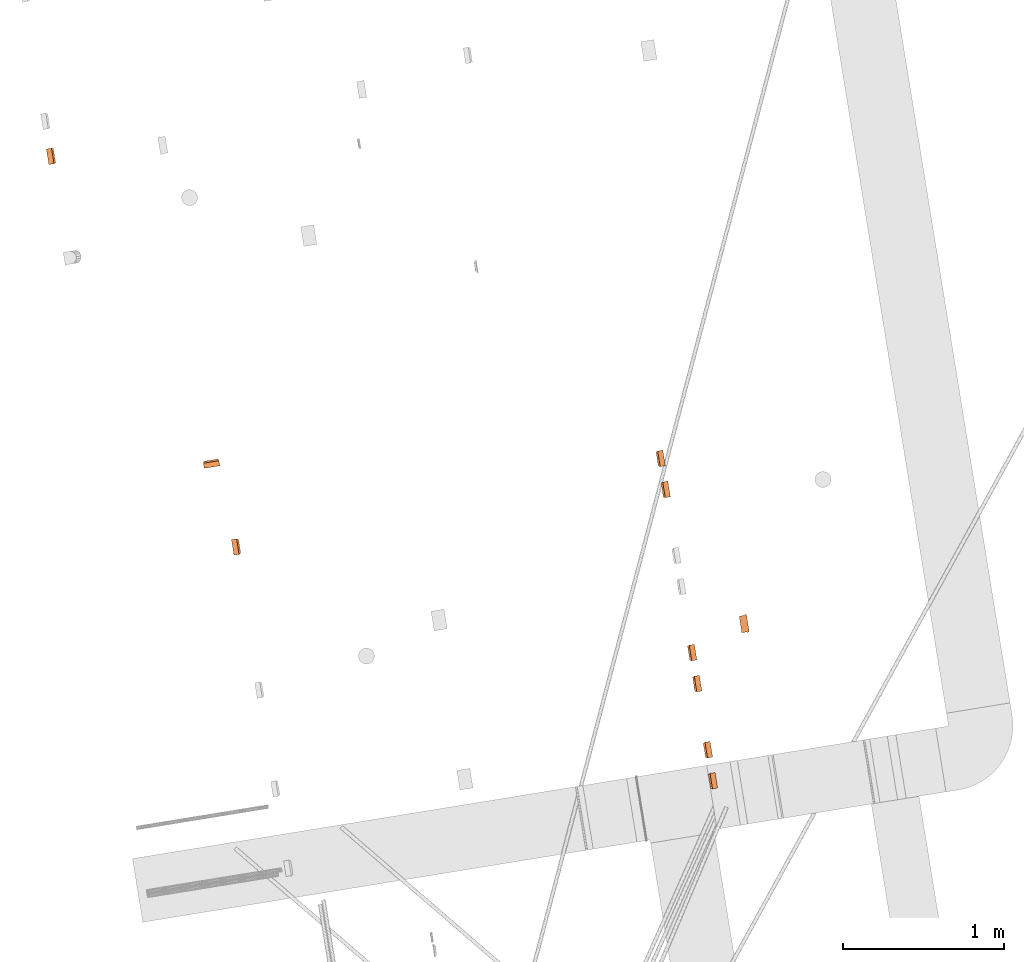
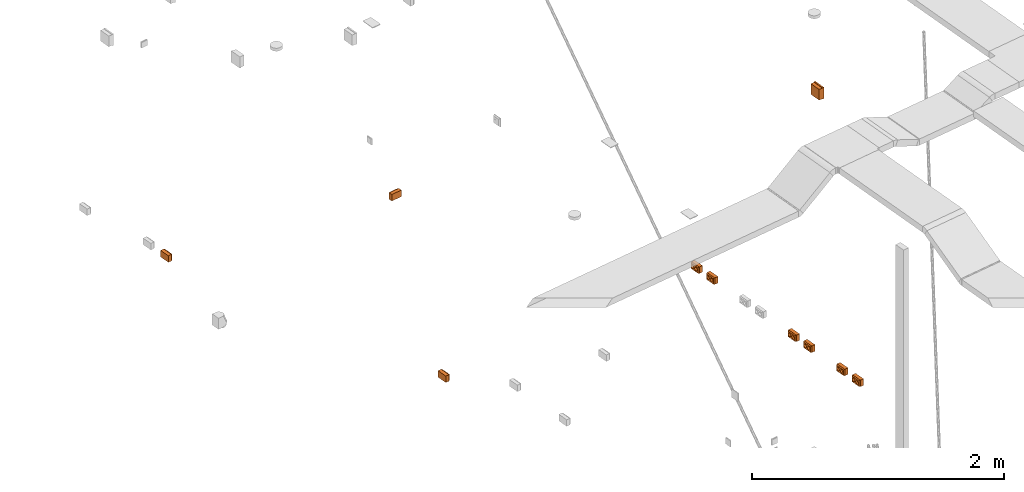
# One storey, part 20 of 33: 10 proxies.
"""IFC2X3 building model written with IfcOpenShell, lengths in millimetres."""

from ifc_helpers import new_model, entity, si_unit, converted_unit, derived_unit, direction, frame, frame_2d, origin, origin_with_axes, origin_2d_with_axis, place, context, subcontext, project, spatial, polyline, circle_curve, parameter, trimmed, segment, composite_curve, rectangle, circle, hollow_circle, outline, extrude, source, transform, mapped, material, type_object, element, save


model = new_model("IFC2X3")

# Units and contexts
plan_context = context("Plan", 3, precision=1e-05, world=origin_with_axes())
model_context = context("Model", 3, precision=0.01, world=origin(), true_north=direction((6.12323399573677e-17, 1.0)))
body_context = subcontext(model_context, "Body", "Model", "MODEL_VIEW")
ifc_project = project(units=[converted_unit("PLANEANGLEUNIT", "DEGREE", entity("IfcPositiveLengthMeasure", 0.0174532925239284), si_unit("PLANEANGLEUNIT", "RADIAN"), dimensions=[0, 0, 0, 0, 0, 0, 0]), si_unit("AREAUNIT", "SQUARE_METRE"), si_unit("LENGTHUNIT", "METRE", prefix="MILLI"), si_unit("MASSUNIT", "GRAM", prefix="KILO"), si_unit("POWERUNIT", "WATT"), si_unit("PRESSUREUNIT", "PASCAL", prefix="KILO"), si_unit("FORCEUNIT", "NEWTON", prefix="KILO"), si_unit("ELECTRICVOLTAGEUNIT", "VOLT"), si_unit("ELECTRICCURRENTUNIT", "AMPERE"), si_unit("THERMODYNAMICTEMPERATUREUNIT", "DEGREE_CELSIUS"), si_unit("TIMEUNIT", "SECOND"), si_unit("VOLUMEUNIT", "CUBIC_METRE"), derived_unit("LINEARVELOCITYUNIT", [(si_unit("LENGTHUNIT", "METRE"), 1), (si_unit("TIMEUNIT", "SECOND"), -1)]), derived_unit("VOLUMETRICFLOWRATEUNIT", [(si_unit("VOLUMEUNIT", "CUBIC_METRE"), 1), (si_unit("TIMEUNIT", "SECOND"), -1)]), derived_unit("THERMALTRANSMITTANCEUNIT", [(si_unit("POWERUNIT", "WATT"), 1), (si_unit("THERMODYNAMICTEMPERATUREUNIT", "KELVIN"), -1), (si_unit("AREAUNIT", "SQUARE_METRE"), -1)]), derived_unit("SOUNDPRESSUREUNIT", [(si_unit("PRESSUREUNIT", "PASCAL"), 1)])], contexts=[model_context, plan_context])

# Site, building, storey
site_placement = place(None, frame((-0.219946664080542, 0.12226179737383, 0.0), z_axis=(0.0, 0.0, 1.0), x_axis=(-0.160236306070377, 0.987078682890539, 0.0)))
site = spatial("IfcSite", under=ifc_project, at=site_placement, Name="Default", CompositionType="ELEMENT")
building_placement = place(site_placement, origin_with_axes())
building = spatial("IfcBuilding", under=site, at=building_placement, CompositionType="ELEMENT")
storey_placement = place(building_placement, frame((0.0, 0.0, 59000.0), z_axis=(0.0, 0.0, 1.0), x_axis=(1.0, 0.0, 0.0)))
storey = spatial("IfcBuildingStorey", under=building, at=storey_placement, Name="Nivå F", CompositionType="ELEMENT", Elevation=59000.0)

# Proxies
ifc_material = material(Name="<Unnamed>")
building_element_proxy_type_1 = type_object("IfcBuildingElementProxyType", Name="Dobbel stikk på vegg 2P+J hor PH:EARTHED-SOCKET-2(HOR)", PredefinedType="NOTDEFINED", material=ifc_material)
shared_shape_1 = source(origin(), body_context, "Body", "SweptSolid", [
    extrude(outline(composite_curve([segment(polyline([(-6.66666666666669, -6.66666666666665), (13.3333333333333, -6.66666666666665)]), True, "CONTINUOUS"), segment(trimmed(circle_curve(frame_2d((13.3333333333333, 13.3333333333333), x_axis=(0.0, -1.0)), 20.0), [parameter(270.0)], [parameter(5.08888749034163e-14)], True, "PARAMETER"), False, "CONTINUOUS"), segment(polyline([(-6.66666666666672, 13.3333333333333), (-6.66666666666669, -6.66666666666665)]), True, "CONTINUOUS")], self_intersect=False)), frame((35.3333333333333, 42.8999999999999, 13.3533333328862), z_axis=(0.0, 1.0, 0.0), x_axis=(0.0, 0.0, -1.0)), (0.0, 0.0, 1.0), 0.199999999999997),
    extrude(outline(composite_curve([segment(polyline([(-6.66666666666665, -6.66666666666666), (13.3333333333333, -6.66666666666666)]), True, "CONTINUOUS"), segment(trimmed(circle_curve(frame_2d((13.3333333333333, 13.3333333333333), x_axis=(-1.0, 0.0)), 20.0), [parameter(360.0)], [parameter(89.9999999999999)], True, "PARAMETER"), False, "CONTINUOUS"), segment(polyline([(-6.66666666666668, 13.3333333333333), (-6.66666666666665, -6.66666666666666)]), True, "CONTINUOUS")], self_intersect=False)), frame((35.3333333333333, 42.8999999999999, -13.3233333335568), z_axis=(0.0, 1.0, 0.0), x_axis=(-1.0, 0.0, 0.0)), (0.0, 0.0, 1.0), 0.199999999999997),
    extrude(outline(composite_curve([segment(polyline([(-6.66666666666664, -6.66666666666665), (13.3333333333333, -6.66666666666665)]), True, "CONTINUOUS"), segment(trimmed(circle_curve(frame_2d((13.3333333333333, 13.3333333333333), x_axis=(-1.0, 0.0)), 20.0), [parameter(0.0)], [parameter(89.9999999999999)], True, "PARAMETER"), False, "CONTINUOUS"), segment(polyline([(-6.66666666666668, 13.3333333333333), (-6.66666666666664, -6.66666666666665)]), True, "CONTINUOUS")], self_intersect=False)), frame((8.66666666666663, 42.8999999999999, 13.3433333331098), z_axis=(0.0, 1.0, 0.0), x_axis=(1.0, 0.0, 0.0)), (0.0, 0.0, 1.0), 0.199999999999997),
    extrude(outline(composite_curve([segment(polyline([(-6.66666666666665, -6.66666666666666), (13.3333333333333, -6.66666666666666)]), True, "CONTINUOUS"), segment(trimmed(circle_curve(frame_2d((13.3333333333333, 13.3333333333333), x_axis=(-1.0, 0.0)), 20.0), [parameter(360.0)], [parameter(89.9999999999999)], True, "PARAMETER"), False, "CONTINUOUS"), segment(polyline([(-6.66666666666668, 13.3333333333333), (-6.66666666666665, -6.66666666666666)]), True, "CONTINUOUS")], self_intersect=False)), frame((35.3333333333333, 42.8999999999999, -13.3433333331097), z_axis=(0.0, 1.0, 0.0), x_axis=(-1.0, 0.0, 0.0)), (0.0, 0.0, 1.0), 0.199999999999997),
    extrude(outline(composite_curve([segment(polyline([(-6.66666666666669, -6.66666666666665), (13.3333333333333, -6.66666666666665)]), True, "CONTINUOUS"), segment(trimmed(circle_curve(frame_2d((13.3333333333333, 13.3333333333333), x_axis=(0.0, -1.0)), 20.0), [parameter(270.0)], [parameter(5.08888749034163e-14)], True, "PARAMETER"), False, "CONTINUOUS"), segment(polyline([(-6.66666666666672, 13.3333333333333), (-6.66666666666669, -6.66666666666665)]), True, "CONTINUOUS")], self_intersect=False)), frame((35.3333333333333, 42.8999999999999, 13.3333333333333), z_axis=(0.0, 1.0, 0.0), x_axis=(0.0, 0.0, -1.0)), (0.0, 0.0, 1.0), 0.199999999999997),
    extrude(outline(composite_curve([segment(polyline([(-6.66666666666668, -6.66666666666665), (13.3333333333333, -6.66666666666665)]), True, "CONTINUOUS"), segment(trimmed(circle_curve(frame_2d((13.3333333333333, 13.3333333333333), x_axis=(0.0, -1.0)), 20.0), [parameter(270.0)], [parameter(0.0)], True, "PARAMETER"), False, "CONTINUOUS"), segment(polyline([(-6.66666666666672, 13.3333333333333), (-6.66666666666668, -6.66666666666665)]), True, "CONTINUOUS")], self_intersect=False)), frame((8.66666666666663, 42.8999999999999, -13.3333333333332), z_axis=(0.0, 1.0, 0.0), x_axis=(0.0, 0.0, 1.0)), (0.0, 0.0, 1.0), 0.199999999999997),
    extrude(outline(composite_curve([segment(polyline([(-6.66666666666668, -6.66666666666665), (13.3333333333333, -6.66666666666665)]), True, "CONTINUOUS"), segment(trimmed(circle_curve(frame_2d((13.3333333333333, 13.3333333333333), x_axis=(0.0, -1.0)), 20.0), [parameter(270.0)], [parameter(0.0)], True, "PARAMETER"), False, "CONTINUOUS"), segment(polyline([(-6.66666666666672, 13.3333333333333), (-6.66666666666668, -6.66666666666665)]), True, "CONTINUOUS")], self_intersect=False)), frame((-8.66666666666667, 42.8999999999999, 13.3533333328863), z_axis=(0.0, 1.0, 0.0), x_axis=(0.0, 0.0, -1.0)), (0.0, 0.0, 1.0), 0.199999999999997),
    extrude(outline(composite_curve([segment(polyline([(-6.66666666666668, -6.66666666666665), (13.3333333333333, -6.66666666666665)]), True, "CONTINUOUS"), segment(trimmed(circle_curve(frame_2d((13.3333333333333, 13.3333333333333), x_axis=(-1.0, 0.0)), 20.0), [parameter(0.0)], [parameter(90.0)], True, "PARAMETER"), False, "CONTINUOUS"), segment(polyline([(-6.66666666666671, 13.3333333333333), (-6.66666666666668, -6.66666666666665)]), True, "CONTINUOUS")], self_intersect=False)), frame((-8.66666666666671, 42.8999999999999, -13.3233333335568), z_axis=(0.0, 1.0, 0.0), x_axis=(-1.0, 0.0, 0.0)), (0.0, 0.0, 1.0), 0.199999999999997),
    extrude(outline(composite_curve([segment(polyline([(-6.66666666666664, -6.66666666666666), (13.3333333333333, -6.66666666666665)]), True, "CONTINUOUS"), segment(trimmed(circle_curve(frame_2d((13.3333333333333, 13.3333333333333), x_axis=(-1.0, 0.0)), 20.0), [parameter(360.0)], [parameter(89.9999999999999)], True, "PARAMETER"), False, "CONTINUOUS"), segment(polyline([(-6.66666666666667, 13.3333333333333), (-6.66666666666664, -6.66666666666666)]), True, "CONTINUOUS")], self_intersect=False)), frame((-35.3333333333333, 42.8999999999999, 13.3433333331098), z_axis=(0.0, 1.0, 0.0), x_axis=(1.0, 0.0, 0.0)), (0.0, 0.0, 1.0), 0.199999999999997),
    extrude(outline(composite_curve([segment(polyline([(-6.66666666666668, -6.66666666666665), (13.3333333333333, -6.66666666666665)]), True, "CONTINUOUS"), segment(trimmed(circle_curve(frame_2d((13.3333333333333, 13.3333333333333), x_axis=(-1.0, 0.0)), 20.0), [parameter(0.0)], [parameter(90.0)], True, "PARAMETER"), False, "CONTINUOUS"), segment(polyline([(-6.66666666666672, 13.3333333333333), (-6.66666666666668, -6.66666666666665)]), True, "CONTINUOUS")], self_intersect=False)), frame((-8.66666666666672, 42.8999999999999, -13.3433333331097), z_axis=(0.0, 1.0, 0.0), x_axis=(-1.0, 0.0, 0.0)), (0.0, 0.0, 1.0), 0.199999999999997),
    extrude(outline(composite_curve([segment(polyline([(-6.66666666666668, -6.66666666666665), (13.3333333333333, -6.66666666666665)]), True, "CONTINUOUS"), segment(trimmed(circle_curve(frame_2d((13.3333333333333, 13.3333333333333), x_axis=(0.0, -1.0)), 20.0), [parameter(270.0)], [parameter(0.0)], True, "PARAMETER"), False, "CONTINUOUS"), segment(polyline([(-6.66666666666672, 13.3333333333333), (-6.66666666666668, -6.66666666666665)]), True, "CONTINUOUS")], self_intersect=False)), frame((-8.66666666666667, 42.8999999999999, 13.3333333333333), z_axis=(0.0, 1.0, 0.0), x_axis=(0.0, 0.0, -1.0)), (0.0, 0.0, 1.0), 0.199999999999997),
    extrude(outline(composite_curve([segment(polyline([(-6.66666666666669, -6.66666666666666), (13.3333333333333, -6.66666666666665)]), True, "CONTINUOUS"), segment(trimmed(circle_curve(frame_2d((13.3333333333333, 13.3333333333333), x_axis=(0.0, -1.0)), 20.0), [parameter(270.0)], [parameter(5.08888749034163e-14)], True, "PARAMETER"), False, "CONTINUOUS"), segment(polyline([(-6.66666666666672, 13.3333333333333), (-6.66666666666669, -6.66666666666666)]), True, "CONTINUOUS")], self_intersect=False)), frame((-35.3333333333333, 42.8999999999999, -13.3333333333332), z_axis=(0.0, 1.0, 0.0), x_axis=(0.0, 0.0, 1.0)), (0.0, 0.0, 1.0), 0.199999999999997),
    extrude(rectangle(XDim=9.99999999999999, YDim=1.0, at=frame_2d((0.0, 2.1094237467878e-15), x_axis=(1.0, 0.0))), frame((22.0, 40.0, -17.6), z_axis=(0.0, 0.0, 1.0), x_axis=(0.0, -1.0, 0.0)), (0.0, 0.0, 1.0), 0.199999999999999),
    extrude(rectangle(XDim=21.5, YDim=1.0, at=frame_2d((0.0, 8.43769498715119e-15), x_axis=(1.0, 0.0))), frame((22.0, 32.25, -19.6), z_axis=(0.0, 0.0, 1.0), x_axis=(0.0, -1.0, 0.0)), (0.0, 0.0, 1.0), 0.200000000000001),
    extrude(rectangle(XDim=9.99999999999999, YDim=1.0, at=frame_2d((0.0, 2.1094237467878e-15), x_axis=(1.0, 0.0))), frame((22.0, 40.0, 17.4), z_axis=(0.0, 0.0, 1.0), x_axis=(0.0, -1.0, 0.0)), (0.0, 0.0, 1.0), 0.199999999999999),
    extrude(rectangle(XDim=21.5, YDim=1.0, at=frame_2d((0.0, 8.43769498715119e-15), x_axis=(1.0, 0.0))), frame((22.0, 32.25, 19.4), z_axis=(0.0, 0.0, 1.0), x_axis=(0.0, -1.0, 0.0)), (0.0, 0.0, 1.0), 0.200000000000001),
    extrude(rectangle(XDim=9.99999999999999, YDim=1.0, at=frame_2d((0.0, -2.1094237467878e-15), x_axis=(1.0, 0.0))), frame((-22.0, 40.0, -17.6), z_axis=(0.0, 0.0, 1.0), x_axis=(0.0, -1.0, 0.0)), (0.0, 0.0, 1.0), 0.199999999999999),
    extrude(rectangle(XDim=21.5, YDim=1.0, at=frame_2d((0.0, 8.43769498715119e-15), x_axis=(1.0, 0.0))), frame((-22.0, 32.25, -19.6), z_axis=(0.0, 0.0, 1.0), x_axis=(0.0, -1.0, 0.0)), (0.0, 0.0, 1.0), 0.200000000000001),
    extrude(rectangle(XDim=9.99999999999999, YDim=1.0, at=frame_2d((0.0, -2.1094237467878e-15), x_axis=(1.0, 0.0))), frame((-22.0, 40.0, 17.4), z_axis=(0.0, 0.0, 1.0), x_axis=(0.0, -1.0, 0.0)), (0.0, 0.0, 1.0), 0.199999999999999),
    extrude(rectangle(XDim=21.5, YDim=1.0, at=frame_2d((0.0, 8.43769498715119e-15), x_axis=(1.0, 0.0))), frame((-22.0, 32.25, 19.4), z_axis=(0.0, 0.0, 1.0), x_axis=(0.0, -1.0, 0.0)), (0.0, 0.0, 1.0), 0.200000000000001),
    extrude(rectangle(XDim=0.199999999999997, YDim=2.0, at=frame_2d((4.2257863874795e-15, 0.0), x_axis=(1.0, 0.0))), frame((43.0, 43.0, 0.0199999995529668), z_axis=(0.0, 0.0, 1.0), x_axis=(0.0, 1.0, 0.0)), (0.0, 0.0, 1.0), 20.0),
    extrude(rectangle(XDim=0.199999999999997, YDim=40.0, at=frame_2d((4.2257863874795e-15, 0.0), x_axis=(1.0, 0.0))), frame((22.0, 43.0, 20.0199999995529), z_axis=(0.0, 0.0, 1.0), x_axis=(0.0, 1.0, 0.0)), (0.0, 0.0, 1.0), 6.5),
    extrude(rectangle(XDim=0.199999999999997, YDim=2.0, at=frame_2d((4.2257863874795e-15, 0.0), x_axis=(1.0, 0.0))), frame((43.0, 43.0, -19.9900000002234), z_axis=(0.0, 0.0, 1.0), x_axis=(0.0, -1.0, 0.0)), (0.0, 0.0, 1.0), 20.0),
    extrude(rectangle(XDim=0.199999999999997, YDim=40.0, at=frame_2d((4.2257863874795e-15, 0.0), x_axis=(1.0, 0.0))), frame((22.0, 43.0, -26.4900000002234), z_axis=(0.0, 0.0, 1.0), x_axis=(0.0, -1.0, 0.0)), (0.0, 0.0, 1.0), 6.49999999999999),
    extrude(rectangle(XDim=0.199999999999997, YDim=2.0, at=frame_2d((4.2257863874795e-15, 0.0), x_axis=(1.0, 0.0))), frame((1.0, 43.0, 0.00999999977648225), z_axis=(0.0, 0.0, 1.0), x_axis=(0.0, -1.0, 0.0)), (0.0, 0.0, 1.0), 20.0),
    extrude(rectangle(XDim=0.199999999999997, YDim=2.0, at=frame_2d((4.2257863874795e-15, 0.0), x_axis=(1.0, 0.0))), frame((43.0, 43.0, -20.0099999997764), z_axis=(0.0, 0.0, 1.0), x_axis=(0.0, -1.0, 0.0)), (0.0, 0.0, 1.0), 20.0),
    extrude(rectangle(XDim=0.199999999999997, YDim=40.0, at=frame_2d((4.2257863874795e-15, 0.0), x_axis=(1.0, 0.0))), frame((22.0, 43.0, -26.5099999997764), z_axis=(0.0, 0.0, 1.0), x_axis=(0.0, -1.0, 0.0)), (0.0, 0.0, 1.0), 6.5),
    extrude(rectangle(XDim=0.199999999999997, YDim=2.0, at=frame_2d((4.2257863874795e-15, 0.0), x_axis=(1.0, 0.0))), frame((43.0, 43.0, 0.0), z_axis=(0.0, 0.0, 1.0), x_axis=(0.0, 1.0, 0.0)), (0.0, 0.0, 1.0), 20.0),
    extrude(rectangle(XDim=0.199999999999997, YDim=40.0, at=frame_2d((4.2257863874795e-15, 0.0), x_axis=(1.0, 0.0))), frame((22.0, 43.0, 20.0), z_axis=(0.0, 0.0, 1.0), x_axis=(0.0, 1.0, 0.0)), (0.0, 0.0, 1.0), 6.5),
    extrude(rectangle(XDim=0.199999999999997, YDim=2.0, at=frame_2d((4.2257863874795e-15, 0.0), x_axis=(1.0, 0.0))), frame((1.0, 43.0, -20.0), z_axis=(0.0, 0.0, 1.0), x_axis=(0.0, 1.0, 0.0)), (0.0, 0.0, 1.0), 20.0),
    extrude(rectangle(XDim=0.199999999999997, YDim=2.0, at=frame_2d((4.2257863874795e-15, 0.0), x_axis=(1.0, 0.0))), frame((-1.0, 43.0, 0.0199999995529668), z_axis=(0.0, 0.0, 1.0), x_axis=(0.0, 1.0, 0.0)), (0.0, 0.0, 1.0), 20.0),
    extrude(rectangle(XDim=0.199999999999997, YDim=40.0, at=frame_2d((4.2257863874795e-15, 0.0), x_axis=(1.0, 0.0))), frame((-22.0, 43.0, 20.0199999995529), z_axis=(0.0, 0.0, 1.0), x_axis=(0.0, 1.0, 0.0)), (0.0, 0.0, 1.0), 6.5),
    extrude(rectangle(XDim=0.199999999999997, YDim=2.0, at=frame_2d((4.2257863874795e-15, 0.0), x_axis=(1.0, 0.0))), frame((-1.0, 43.0, -19.9900000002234), z_axis=(0.0, 0.0, 1.0), x_axis=(0.0, -1.0, 0.0)), (0.0, 0.0, 1.0), 20.0),
    extrude(rectangle(XDim=0.199999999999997, YDim=40.0, at=frame_2d((4.2257863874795e-15, 0.0), x_axis=(1.0, 0.0))), frame((-22.0, 43.0, -26.4900000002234), z_axis=(0.0, 0.0, 1.0), x_axis=(0.0, -1.0, 0.0)), (0.0, 0.0, 1.0), 6.49999999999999),
    extrude(rectangle(XDim=0.199999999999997, YDim=1.99999999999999, at=frame_2d((4.2257863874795e-15, 4.2188474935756e-15), x_axis=(1.0, 0.0))), frame((-43.0, 43.0, 0.00999999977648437), z_axis=(0.0, 0.0, 1.0), x_axis=(0.0, -1.0, 0.0)), (0.0, 0.0, 1.0), 20.0),
    extrude(rectangle(XDim=0.199999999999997, YDim=2.0, at=frame_2d((4.2257863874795e-15, 0.0), x_axis=(1.0, 0.0))), frame((-1.0, 43.0, -20.0099999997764), z_axis=(0.0, 0.0, 1.0), x_axis=(0.0, -1.0, 0.0)), (0.0, 0.0, 1.0), 20.0),
    extrude(rectangle(XDim=0.199999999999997, YDim=40.0, at=frame_2d((4.2257863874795e-15, 0.0), x_axis=(1.0, 0.0))), frame((-22.0, 43.0, -26.5099999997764), z_axis=(0.0, 0.0, 1.0), x_axis=(0.0, -1.0, 0.0)), (0.0, 0.0, 1.0), 6.5),
    extrude(rectangle(XDim=0.199999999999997, YDim=2.0, at=frame_2d((4.2257863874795e-15, 0.0), x_axis=(1.0, 0.0))), frame((-1.0, 43.0, 0.0), z_axis=(0.0, 0.0, 1.0), x_axis=(0.0, 1.0, 0.0)), (0.0, 0.0, 1.0), 20.0),
    extrude(rectangle(XDim=0.199999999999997, YDim=40.0, at=frame_2d((4.2257863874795e-15, 0.0), x_axis=(1.0, 0.0))), frame((-22.0, 43.0, 20.0), z_axis=(0.0, 0.0, 1.0), x_axis=(0.0, 1.0, 0.0)), (0.0, 0.0, 1.0), 6.5),
    extrude(rectangle(XDim=0.199999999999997, YDim=1.99999999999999, at=frame_2d((4.2257863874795e-15, -4.2188474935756e-15), x_axis=(1.0, 0.0))), frame((-43.0, 43.0, -20.0), z_axis=(0.0, 0.0, 1.0), x_axis=(0.0, 1.0, 0.0)), (0.0, 0.0, 1.0), 20.0),
    extrude(rectangle(XDim=0.199999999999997, YDim=2.0, at=frame_2d((4.2257863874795e-15, 0.0), x_axis=(1.0, 0.0))), frame((-1.0, 43.0, -26.5), z_axis=(0.0, 0.0, 1.0), x_axis=(0.0, 1.0, 0.0)), (0.0, 0.0, 1.0), 6.49999999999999),
    extrude(rectangle(XDim=0.199999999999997, YDim=1.99999999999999, at=frame_2d((4.2257863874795e-15, 4.2188474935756e-15), x_axis=(1.0, 0.0))), frame((-43.0, 43.0, -26.5), z_axis=(0.0, 0.0, 1.0), x_axis=(0.0, 1.0, 0.0)), (0.0, 0.0, 1.0), 6.49999999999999),
    extrude(rectangle(XDim=0.199999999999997, YDim=2.0, at=frame_2d((4.2257863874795e-15, 0.0), x_axis=(1.0, 0.0))), frame((1.0, 43.0, -26.5), z_axis=(0.0, 0.0, 1.0), x_axis=(0.0, 1.0, 0.0)), (0.0, 0.0, 1.0), 6.49999999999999),
    extrude(rectangle(XDim=0.199999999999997, YDim=1.99999999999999, at=frame_2d((4.2257863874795e-15, -4.2188474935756e-15), x_axis=(1.0, 0.0))), frame((43.0, 43.0, -26.5), z_axis=(0.0, 0.0, 1.0), x_axis=(0.0, 1.0, 0.0)), (0.0, 0.0, 1.0), 6.49999999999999),
    extrude(outline(polyline([(-24.3180677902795, -42.966633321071), (-11.2413709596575, -42.9666333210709), (22.4062700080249, 38.3465652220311), (13.1531687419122, 47.5867014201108), (-24.3180677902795, -42.966633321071)])), frame((0.0, 37.5413802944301, -29.0910366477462), z_axis=(0.0, -0.413802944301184, 0.910366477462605), x_axis=(-0.382359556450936, 0.84119102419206, 0.382359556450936)), (0.0, 0.0, 1.0), 0.199999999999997),
    extrude(outline(polyline([(-31.5, -6.04152298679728), (31.5, -6.04152298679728), (26.5, 6.04152298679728), (-26.5, 6.04152298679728), (-31.5, -6.04152298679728)])), frame((-46.5910366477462, 37.5413802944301, 0.0), z_axis=(0.910366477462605, -0.413802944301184, 0.0), x_axis=(0.0, 0.0, -1.0)), (0.0, 0.0, 1.0), 0.200000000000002),
    extrude(outline(polyline([(-31.5, -6.04152298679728), (31.5, -6.04152298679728), (26.5, 6.04152298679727), (-26.5, 6.04152298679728), (-31.5, -6.04152298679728)])), frame((46.4089633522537, 37.4586197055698, 0.0), z_axis=(0.910366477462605, 0.413802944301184, 0.0), x_axis=(0.0, 0.0, -1.0)), (0.0, 0.0, 1.0), 0.199999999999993),
    extrude(rectangle(XDim=32.0, YDim=97.9999999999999, at=frame_2d((1.77635683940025e-15, 0.0), x_axis=(1.0, 0.0))), frame((0.0, 16.0, -31.6), z_axis=(0.0, 0.0, 1.0), x_axis=(0.0, -1.0, 0.0)), (0.0, 0.0, 1.0), 0.200000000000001),
    extrude(rectangle(XDim=0.199999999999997, YDim=2.0, at=frame_2d((4.2257863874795e-15, 0.0), x_axis=(1.0, 0.0))), frame((-1.0, 43.0, 20.0), z_axis=(0.0, 0.0, 1.0), x_axis=(0.0, 1.0, 0.0)), (0.0, 0.0, 1.0), 6.49999999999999),
    extrude(rectangle(XDim=0.199999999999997, YDim=1.99999999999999, at=frame_2d((4.2257863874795e-15, 4.2188474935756e-15), x_axis=(1.0, 0.0))), frame((-43.0, 43.0, 20.0), z_axis=(0.0, 0.0, 1.0), x_axis=(0.0, 1.0, 0.0)), (0.0, 0.0, 1.0), 6.49999999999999),
    extrude(outline(polyline([(-44.0, -6.04152298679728), (44.0, -6.04152298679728), (49.0, 6.04152298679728), (-49.0, 6.04152298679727), (-44.0, -6.04152298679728)])), frame((0.0, 37.4586197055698, 28.9089633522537), z_axis=(0.0, 0.413802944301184, 0.910366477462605), x_axis=(-1.0, 0.0, 0.0)), (0.0, 0.0, 1.0), 0.200000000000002),
    extrude(rectangle(XDim=0.199999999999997, YDim=2.0, at=frame_2d((4.2257863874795e-15, 0.0), x_axis=(1.0, 0.0))), frame((1.0, 43.0, 20.0), z_axis=(0.0, 0.0, 1.0), x_axis=(0.0, 1.0, 0.0)), (0.0, 0.0, 1.0), 6.49999999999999),
    extrude(rectangle(XDim=0.199999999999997, YDim=1.99999999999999, at=frame_2d((4.2257863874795e-15, -4.2188474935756e-15), x_axis=(1.0, 0.0))), frame((43.0, 43.0, 20.0), z_axis=(0.0, 0.0, 1.0), x_axis=(0.0, 1.0, 0.0)), (0.0, 0.0, 1.0), 6.49999999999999),
    extrude(rectangle(XDim=32.0, YDim=97.9999999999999, at=frame_2d((1.77635683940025e-15, 0.0), x_axis=(1.0, 0.0))), frame((0.0, 16.0, 31.4), z_axis=(0.0, 0.0, 1.0), x_axis=(0.0, -1.0, 0.0)), (0.0, 0.0, 1.0), 0.200000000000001),
    extrude(rectangle(XDim=0.199999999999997, YDim=32.0, at=frame_2d((-4.2257863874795e-15, 0.0), x_axis=(1.0, 0.0))), frame((49.0, 16.0, -31.5)), (0.0, 0.0, 1.0), 62.9999999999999),
    extrude(rectangle(XDim=0.199999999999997, YDim=32.0, at=frame_2d((-4.2257863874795e-15, 0.0), x_axis=(1.0, 0.0))), frame((-49.0, 16.0, -31.5)), (0.0, 0.0, 1.0), 62.9999999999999),
    extrude(rectangle(XDim=0.2, YDim=97.9999999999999, at=origin_2d_with_axis()), frame((0.0, 0.0, -31.5), z_axis=(0.0, 0.0, 1.0), x_axis=(0.0, 1.0, 0.0)), (0.0, 0.0, 1.0), 62.9999999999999),
    extrude(circle(Radius=2.5, at=frame_2d((0.0, -4.22994972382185e-15), x_axis=(1.0, 0.0))), frame((32.0, 21.450000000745, 0.0), z_axis=(0.0, 1.0, 0.0), x_axis=(0.0, 0.0, 1.0)), (0.0, 0.0, 1.0), 0.200000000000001),
    extrude(circle(Radius=2.5, at=frame_2d((0.0, -4.22994972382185e-15), x_axis=(1.0, 0.0))), frame((12.0, 21.450000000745, 0.0), z_axis=(0.0, 1.0, 0.0), x_axis=(0.0, 0.0, 1.0)), (0.0, 0.0, 1.0), 0.200000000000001),
    extrude(circle(Radius=2.5, at=frame_2d((0.0, -4.22994972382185e-15), x_axis=(1.0, 0.0))), frame((-12.0, 21.450000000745, 0.0), z_axis=(0.0, 1.0, 0.0), x_axis=(0.0, 0.0, 1.0)), (0.0, 0.0, 1.0), 0.200000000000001),
    extrude(circle(Radius=2.5, at=frame_2d((0.0, -4.22994972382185e-15), x_axis=(1.0, 0.0))), frame((-32.0, 21.450000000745, 0.0), z_axis=(0.0, 1.0, 0.0), x_axis=(0.0, 0.0, 1.0)), (0.0, 0.0, 1.0), 0.200000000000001),
    extrude(circle(Radius=20.0, at=frame_2d((0.0, -2.96096480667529e-14), x_axis=(1.0, 0.0))), frame((22.0, 21.4, 0.0), z_axis=(0.0, 1.0, 0.0), x_axis=(0.0, 0.0, 1.0)), (0.0, 0.0, 1.0), 0.200000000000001),
    extrude(circle(Radius=20.0, at=frame_2d((0.0, -2.96096480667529e-14), x_axis=(1.0, 0.0))), frame((-22.0, 21.4, 0.0), z_axis=(0.0, 1.0, 0.0), x_axis=(0.0, 0.0, 1.0)), (0.0, 0.0, 1.0), 0.200000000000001),
    extrude(outline(composite_curve([segment(trimmed(circle_curve(frame_2d((-0.800000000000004, 0.800000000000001), x_axis=(1.0, 0.0)), 2.0), [parameter(270.0)], [parameter(0.0)], True, "PARAMETER"), True, "CONTINUOUS"), segment(polyline([(1.2, 0.8), (0.399999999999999, 0.8)]), True, "CONTINUOUS"), segment(trimmed(circle_curve(frame_2d((-0.800000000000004, 0.799999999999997), x_axis=(0.0, -1.0)), 1.2), [parameter(0.0)], [parameter(89.9999999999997)], True, "PARAMETER"), False, "CONTINUOUS"), segment(polyline([(-0.799999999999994, -0.400000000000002), (-0.799999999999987, -1.2)]), True, "CONTINUOUS")], self_intersect=False)), frame((20.5, 43.7999999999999, -18.3), z_axis=(1.0, 0.0, 0.0), x_axis=(0.0, 1.0, 0.0)), (0.0, 0.0, 1.0), 2.0),
    extrude(outline(composite_curve([segment(polyline([(-1.2, -0.800000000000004), (-0.399999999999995, -0.800000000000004)]), True, "CONTINUOUS"), segment(trimmed(circle_curve(frame_2d((0.800000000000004, -0.800000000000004), x_axis=(-1.0, 0.0)), 1.2), [parameter(270.0)], [parameter(0.0)], True, "PARAMETER"), False, "CONTINUOUS"), segment(polyline([(0.799999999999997, 0.399999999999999), (0.79999999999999, 1.2)]), True, "CONTINUOUS"), segment(trimmed(circle_curve(frame_2d((0.800000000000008, -0.800000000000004), x_axis=(0.0, 1.0)), 2.0), [parameter(0.0)], [parameter(89.9999999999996)], True, "PARAMETER"), True, "CONTINUOUS")], self_intersect=False)), frame((21.5, 43.8, 18.3), z_axis=(1.0, 0.0, 0.0), x_axis=(0.0, 0.0, -1.0)), (0.0, 0.0, 1.0), 2.0),
    extrude(outline(composite_curve([segment(trimmed(circle_curve(frame_2d((-0.800000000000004, 0.800000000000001), x_axis=(1.0, 0.0)), 2.0), [parameter(270.0)], [parameter(0.0)], True, "PARAMETER"), True, "CONTINUOUS"), segment(polyline([(1.2, 0.8), (0.399999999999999, 0.8)]), True, "CONTINUOUS"), segment(trimmed(circle_curve(frame_2d((-0.800000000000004, 0.799999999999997), x_axis=(0.0, -1.0)), 1.2), [parameter(0.0)], [parameter(89.9999999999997)], True, "PARAMETER"), False, "CONTINUOUS"), segment(polyline([(-0.799999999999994, -0.400000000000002), (-0.799999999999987, -1.2)]), True, "CONTINUOUS")], self_intersect=False)), frame((-23.5, 43.7999999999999, -18.3), z_axis=(1.0, 0.0, 0.0), x_axis=(0.0, 1.0, 0.0)), (0.0, 0.0, 1.0), 2.0),
    extrude(outline(composite_curve([segment(polyline([(-1.2, -0.800000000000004), (-0.399999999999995, -0.800000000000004)]), True, "CONTINUOUS"), segment(trimmed(circle_curve(frame_2d((0.800000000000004, -0.800000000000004), x_axis=(-1.0, 0.0)), 1.2), [parameter(270.0)], [parameter(0.0)], True, "PARAMETER"), False, "CONTINUOUS"), segment(polyline([(0.799999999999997, 0.399999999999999), (0.79999999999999, 1.2)]), True, "CONTINUOUS"), segment(trimmed(circle_curve(frame_2d((0.800000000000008, -0.800000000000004), x_axis=(0.0, 1.0)), 2.0), [parameter(0.0)], [parameter(89.9999999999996)], True, "PARAMETER"), True, "CONTINUOUS")], self_intersect=False)), frame((-22.5, 43.8, 18.3), z_axis=(1.0, 0.0, 0.0), x_axis=(0.0, 0.0, -1.0)), (0.0, 0.0, 1.0), 2.0),
    extrude(hollow_circle(Radius=20.0, WallThickness=0.199999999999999, at=frame_2d((0.0, -2.96096480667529e-14), x_axis=(1.0, 0.0))), frame((22.0, 21.5, 0.0), z_axis=(0.0, 1.0, 0.0), x_axis=(0.0, 0.0, 1.0)), (0.0, 0.0, 1.0), 21.5),
    extrude(hollow_circle(Radius=20.0, WallThickness=0.199999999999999, at=frame_2d((0.0, -2.96096480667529e-14), x_axis=(1.0, 0.0))), frame((-22.0, 21.5, 0.0), z_axis=(0.0, 1.0, 0.0), x_axis=(0.0, 0.0, 1.0)), (0.0, 0.0, 1.0), 21.5),
])
for number, where, z_axis, x_axis in (
    (1, (777600.747623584, -504502.280501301, 500.0), (0.0, 0.0, 1.0), (1.0, 0.0, 0.0)),
    (2, (777405.747623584, -504502.280501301, 500.0), (0.0, 0.0, 1.0), (1.0, 0.0, 0.0)),
    (3, (776380.747623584, -504502.280501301, 500.0), (0.0, 0.0, 1.0), (1.0, 0.0, 0.0)),
    (4, (776185.747623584, -504502.280501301, 500.0), (0.0, 0.0, 1.0), (1.0, 0.0, 0.0)),
    (5, (775770.747623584, -504502.280501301, 500.0), (0.0, 0.0, 1.0), (1.0, 0.0, 0.0)),
    (6, (775575.747623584, -504502.280501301, 500.0), (0.0, 0.0, 1.0), (1.0, 0.0, 0.0)),
    (7, (777481.925573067, -501772.580498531, 700.0), (0.0, 0.0, 1.0), (-1.0, 0.0, 0.0)),
    (8, (780057.619644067, -501027.580498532, 800.0), (0.0, 0.0, 1.0), (-1.0, 0.0, 0.0)),
    (9, (777994.719644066, -501725.470286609, 2200.0), (0.0, 0.0, 1.0), (0.0, -1.0, 0.0)),
):
    element("IfcBuildingElementProxy", number, at=place(storey_placement, frame(where, z_axis=z_axis, x_axis=x_axis)), inside=storey, type_object=building_element_proxy_type_1, material=ifc_material, Name="Dobbel stikk på vegg 2P+J hor PH:EARTHED-SOCKET-2(HOR)", ObjectType="Dobbel stikk på vegg 2P+J hor PH:EARTHED-SOCKET-2(HOR)", context=body_context, shape_type="MappedRepresentation", body=[
        mapped(shared_shape_1, transform((0.0, 0.0, 0.0), scale=1.0)),
    ])
building_element_proxy_type_2 = type_object("IfcBuildingElementProxyType", Name="1612510-0001:Junction box1", PredefinedType="NOTDEFINED", material=ifc_material)
shared_shape_2 = source(origin(), body_context, "Body", "SweptSolid", [
    extrude(rectangle(XDim=110.0, YDim=13.8000001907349, at=frame_2d((0.0, 2.22044604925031e-15), x_axis=(1.0, 0.0))), frame((0.0, 39.1000008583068, -55.0)), (0.0, 0.0, 1.0), 110.0),
    extrude(rectangle(XDim=104.0, YDim=32.2000007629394, at=origin_2d_with_axis()), frame((0.0, 16.1000003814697, -52.0)), (0.0, 0.0, 1.0), 104.0),
])
proxy_placement = place(storey_placement, frame((776505.876245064, -504804.970846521, 2650.0), z_axis=(0.0, 0.0, 1.0), x_axis=(-0.999975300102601, 0.00702845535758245, 0.0)))
element("IfcBuildingElementProxy", 10, at=proxy_placement, inside=storey, type_object=building_element_proxy_type_2, material=ifc_material, Name="1612510-0001:Junction box1", ObjectType="1612510-0001:Junction box1", context=body_context, shape_type="MappedRepresentation", body=[
    mapped(shared_shape_2, transform((0.0, 0.0, 0.0), scale=1.0)),
])

save(model, "model.ifc")
